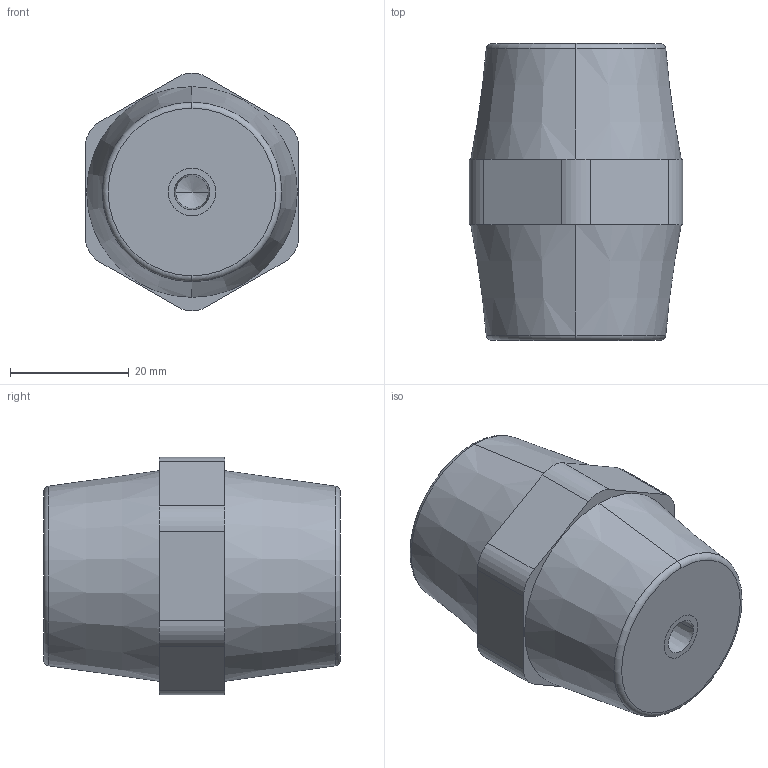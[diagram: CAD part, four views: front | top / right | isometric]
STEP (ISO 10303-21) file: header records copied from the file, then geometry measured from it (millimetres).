
FILE_DESCRIPTION (( 'STEP AP203' ), '1' );
FILE_NAME ('Isolatore 5044 30X50-M6.STEP', '2024-10-28T23:05:18', ( '' ), ( '' ), 'SwSTEP 2.0', 'SolidWorks 2020', '' );
FILE_SCHEMA (( 'CONFIG_CONTROL_DESIGN' ));
Length unit declared in the file: millimetre
Products named in the file (1): Isolatore 5044 30X50-M6
Bounding box: 36 x 50 x 40.02 mm (x, y, z)
Volume: 44216.8 mm3; surface area: 10047.5 mm2
Topology: 3 solids, 3 shells, 87 faces, 191 edges, 116 vertices
Faces by surface type: cylinder 39, plane 24, cone 20, torus 4
Entity records: 2408 total; most frequent: DIRECTION 457, CARTESIAN_POINT 383, ORIENTED_EDGE 358, AXIS2_PLACEMENT_3D 190, EDGE_CURVE 179, VERTEX_POINT 116, EDGE_LOOP 105, CIRCLE 102
